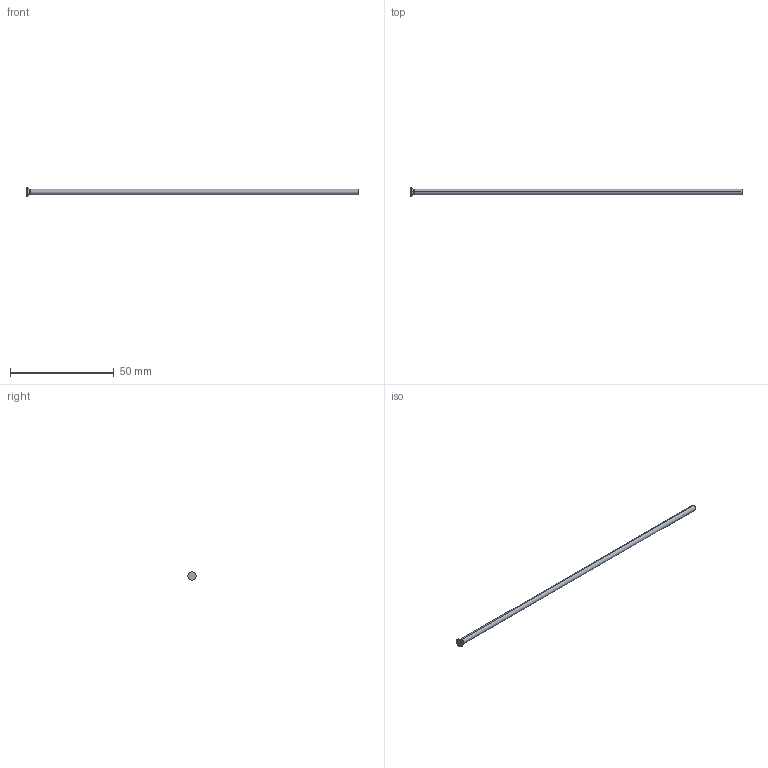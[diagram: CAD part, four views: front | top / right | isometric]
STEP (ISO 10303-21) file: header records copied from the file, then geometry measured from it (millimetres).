
FILE_DESCRIPTION (( 'STEP AP214' ), '1' );
FILE_NAME ('D-2,6x160.STEP', '2020-06-08T10:08:28', ( 'August' ), ( '' ), 'SwSTEP 2.0', 'SolidWorks 2018', '' );
FILE_SCHEMA (( 'AUTOMOTIVE_DESIGN' ));
Length unit declared in the file: millimetre
Products named in the file (1): D-2,6x160
Bounding box: 160 x 4 x 4 mm (x, y, z)
Volume: 857.2 mm3; surface area: 1331.5 mm2
Topology: 1 solids, 1 shells, 10 faces, 18 edges, 10 vertices
Faces by surface type: cylinder 4, torus 2, cone 2, plane 2
Entity records: 280 total; most frequent: DIRECTION 52, CARTESIAN_POINT 39, ORIENTED_EDGE 36, AXIS2_PLACEMENT_3D 23, EDGE_CURVE 18, CIRCLE 12, EDGE_LOOP 10, FACE_OUTER_BOUND 10
